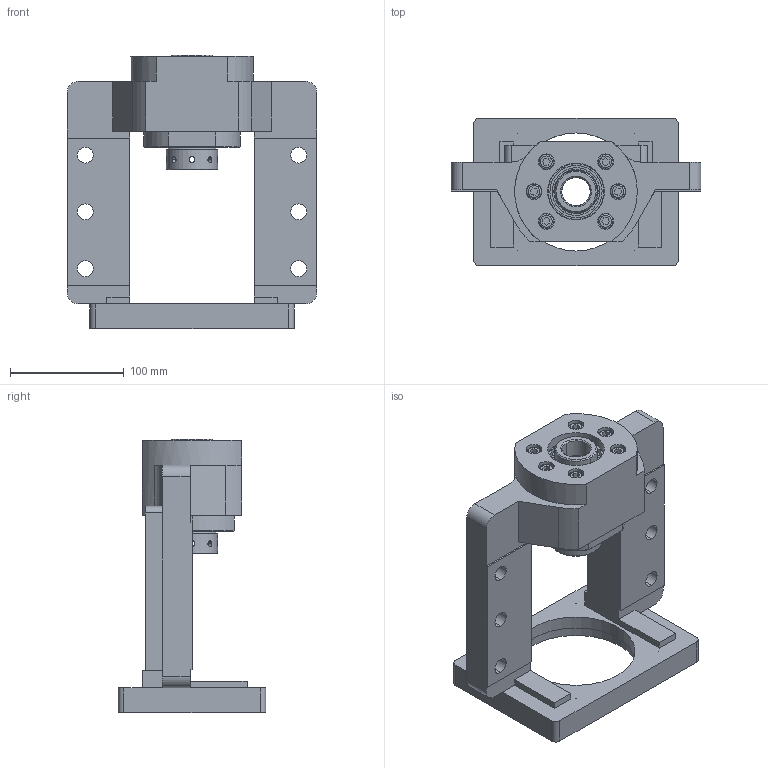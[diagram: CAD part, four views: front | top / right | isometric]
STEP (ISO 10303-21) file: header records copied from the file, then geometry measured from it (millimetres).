
FILE_DESCRIPTION (( 'STEP AP203' ), '1' );
FILE_NAME ('MBCK25L-G²Õ¦X¥ó.STEP', '2025-09-18T03:16:04', ( '' ), ( '' ), 'SwSTEP 2.0', 'SolidWorks 2018', '' );
FILE_SCHEMA (( 'CONFIG_CONTROL_DESIGN' ));
Length unit declared in the file: millimetre
Products named in the file (2): MBCK25L-G組合件
Bounding box: 220 x 130 x 241 mm (x, y, z)
Surface area: 209090.2 mm2 (no closed solid volume)
Topology: 0 solids, 34 shells, 338 faces, 949 edges, 639 vertices
Faces by surface type: plane 124, cylinder 120, cone 58, torus 26, bspline 10
Entity records: 23575 total; most frequent: CARTESIAN_POINT 14782, DIRECTION 1850, ORIENTED_EDGE 1631, EDGE_CURVE 941, AXIS2_PLACEMENT_3D 725, VERTEX_POINT 639, EDGE_LOOP 416, VECTOR 400
